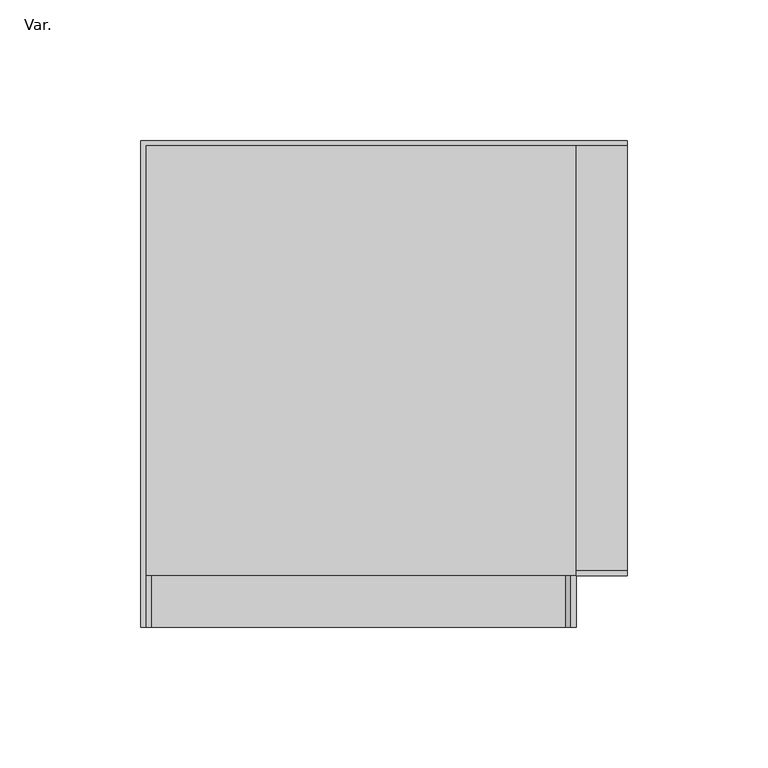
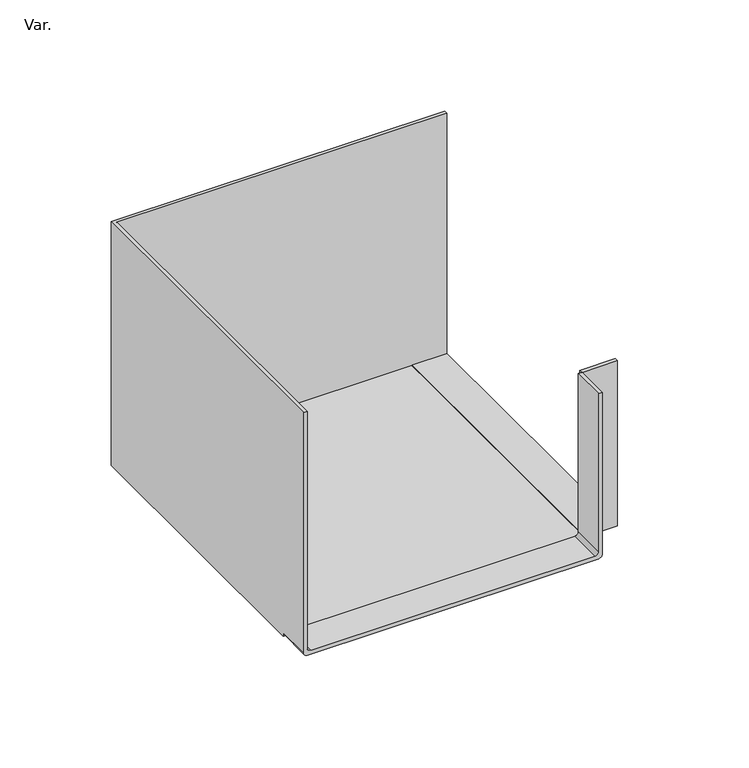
"""IFC4 building model written with IfcOpenShell, lengths in millimetres: pipe fitting geometry, AmancoWavin_Unionesdetubería_CanalesyBajantesZ_NoUsarEsquineroExternoAltoCaudal : Var.."""

import ifcopenshell
import ifcopenshell.guid

model = None  # the IFC model being written
_history = None  # IfcOwnerHistory: only IFC2X3 demands one
_inside = {}  # id of a spatial element -> (the spatial element, [elements in it])
_under = {}  # id of a project, library or spatial element -> (it, [spatial elements below it])
_declared = {}  # id of a project -> (the project, [libraries it declares])
_typed = {}  # id of a type object -> (the type object, [elements of that type])
_made_of = {}  # id of a material, layer set ... -> (it, [elements and type objects made of it])


def new_model(schema):
    """Start an empty IFC model of exactly this schema.

    Asked for "IFC4X3", IfcOpenShell would pick the latest addendum, in which some entities
    have other attributes; the version numbers below select the first issue.
    IFC2X3 requires an IfcOwnerHistory on every rooted entity: one is made here for all.
    """
    global model, _history
    if schema == "IFC4X3":
        model = ifcopenshell.file(schema_version=(4, 3, 0, 0))
    else:
        model = ifcopenshell.file(schema=schema)
    _inside.clear()
    _under.clear()
    _declared.clear()
    _typed.clear()
    _made_of.clear()
    _history = None
    if model.schema == "IFC2X3":
        org = make("IfcOrganization", Name="unknown")
        user = make(
            "IfcPersonAndOrganization",
            ThePerson=make("IfcPerson", FamilyName="unknown"),
            TheOrganization=org,
        )
        app = make(
            "IfcApplication",
            ApplicationDeveloper=org,
            Version="unknown",
            ApplicationFullName="unknown",
            ApplicationIdentifier="unknown",
        )
        _history = make(
            "IfcOwnerHistory",
            OwningUser=user,
            OwningApplication=app,
            ChangeAction="ADDED",
            CreationDate=0,
        )
    return model


def make(cls, **values):
    """One entity of the class cls with the attributes given. An attribute that is None is left unset."""
    return model.create_entity(
        cls, **{name: value for name, value in values.items() if value is not None}
    )


def rooted(cls, **values):
    """An entity with a GlobalId (a new one), such as an element, a storey or a relation."""
    return make(cls, GlobalId=ifcopenshell.guid.new(), OwnerHistory=_history, **values)


def si_unit(unit_type, name, prefix=None):
    """IfcSIUnit, for example si_unit("LENGTHUNIT", "METRE", prefix="MILLI")."""
    return make("IfcSIUnit", UnitType=unit_type, Prefix=prefix, Name=name)


def assignment(units):
    """IfcUnitAssignment: the units of a project."""
    return None if units is None else make("IfcUnitAssignment", Units=units)


def point(xyz):
    """IfcCartesianPoint."""
    return None if xyz is None else make("IfcCartesianPoint", Coordinates=xyz)


def direction(xyz):
    """IfcDirection."""
    return None if xyz is None else make("IfcDirection", DirectionRatios=xyz)


def frame(location, z_axis=None, x_axis=None):
    """IfcAxis2Placement3D, a coordinate frame: its origin and axes. An axis left out is left unset."""
    return make(
        "IfcAxis2Placement3D",
        Location=point(location),
        Axis=direction(z_axis),
        RefDirection=direction(x_axis),
    )


def origin():
    """The frame at (0, 0, 0) with its axes left unset."""
    return frame((0.0, 0.0, 0.0))


def place(relative_to, where):
    """IfcLocalPlacement: puts the frame where relative to a parent placement (None: the world)."""
    return make(
        "IfcLocalPlacement", PlacementRelTo=relative_to, RelativePlacement=where
    )


def context(
    kind, dimensions, precision=None, world=None, true_north=None, identifier=None
):
    """IfcGeometricRepresentationContext, for example the 3D "Model" context."""
    return make(
        "IfcGeometricRepresentationContext",
        ContextIdentifier=identifier,
        ContextType=kind,
        CoordinateSpaceDimension=dimensions,
        Precision=precision,
        WorldCoordinateSystem=world,
        TrueNorth=true_north,
    )


def project(units=None, contexts=None):
    """IfcProject with its units and contexts."""
    return rooted(
        "IfcProject",
        Name="project",
        RepresentationContexts=contexts,
        UnitsInContext=assignment(units),
    )


def spatial(cls, under=None, at=None, **own):
    """A site, building, storey or space (cls), placed at a placement, below another one or the project."""
    s = rooted(cls, ObjectPlacement=at, **own)
    if under is not None:
        _under.setdefault(under.id(), (under, []))[1].append(s)
    return s


def polyline(points):
    """IfcPolyline through the points."""
    return make("IfcPolyline", Points=[point(p) for p in points])


def circle_curve(where, radius):
    """IfcCircle in the frame where."""
    return make("IfcCircle", Position=where, Radius=radius)


def outline(outer, holes=None, kind="AREA"):
    """IfcArbitraryClosedProfileDef: a profile drawn as a closed curve; with holes, ...WithVoids."""
    if holes is None:
        return make("IfcArbitraryClosedProfileDef", ProfileType=kind, OuterCurve=outer)
    return make(
        "IfcArbitraryProfileDefWithVoids",
        ProfileType=kind,
        OuterCurve=outer,
        InnerCurves=holes,
    )


def extrude(swept, where, along, depth):
    """IfcExtrudedAreaSolid: the profile swept, set in the frame where, extruded along a direction by depth."""
    return make(
        "IfcExtrudedAreaSolid",
        SweptArea=swept,
        Position=where,
        ExtrudedDirection=direction(along),
        Depth=depth,
    )


def shape(context_of_items, identifier, shape_type, items):
    """IfcShapeRepresentation: the items that make up one representation, for example the "Body"."""
    return make(
        "IfcShapeRepresentation",
        ContextOfItems=context_of_items,
        RepresentationIdentifier=identifier,
        RepresentationType=shape_type,
        Items=items,
    )


def source(mapping_origin, context_of_items, identifier, shape_type, items):
    """IfcRepresentationMap: a shape defined once, which mapped items show again and again."""
    return make(
        "IfcRepresentationMap",
        MappingOrigin=mapping_origin,
        MappedRepresentation=shape(context_of_items, identifier, shape_type, items),
    )


def transform(
    local_origin,
    x_axis=None,
    y_axis=None,
    z_axis=None,
    scale=None,
    scale2=None,
    scale3=None,
    uniform=True,
):
    """IfcCartesianTransformationOperator3D, or its non-uniform kind. x_axis, y_axis, z_axis: its Axis1, 2, 3."""
    if uniform:
        return make(
            "IfcCartesianTransformationOperator3D",
            Axis1=direction(x_axis),
            Axis2=direction(y_axis),
            LocalOrigin=point(local_origin),
            Scale=scale,
            Axis3=direction(z_axis),
        )
    return make(
        "IfcCartesianTransformationOperator3DnonUniform",
        Axis1=direction(x_axis),
        Axis2=direction(y_axis),
        LocalOrigin=point(local_origin),
        Scale=scale,
        Axis3=direction(z_axis),
        Scale2=scale2,
        Scale3=scale3,
    )


def mapped(mapping_source, mapping_target):
    """IfcMappedItem: shows the shape of a source again, moved by a transform."""
    return make(
        "IfcMappedItem", MappingSource=mapping_source, MappingTarget=mapping_target
    )


def made_of(thing, what):
    """Note that an element or type object is made of a material, layer set ...; save() writes the relation."""
    if what is not None:
        _made_of.setdefault(what.id(), (what, []))[1].append(thing)
    return thing


def element(
    cls,
    number,
    at=None,
    inside=None,
    cuts=None,
    type_object=None,
    material=None,
    context=None,
    identifier="Body",
    shape_type=None,
    held_by="IfcProductDefinitionShape",
    body=None,
    shapes=None,
    **own,
):
    """One element of the class cls, such as IfcWall. Its Tag is "e" and its number.

    at: its placement. inside: the storey or other place that contains it. cuts: it is an
    opening in that element (IfcRelVoidsElement). A single representation is given by context,
    identifier, shape_type and body (its items); several are given by shapes. held_by: the class
    of the entity that holds the representations. save() writes the other relations.
    """
    e = rooted(cls, Tag="e%d" % number, ObjectPlacement=at, **own)
    if body is not None:
        shapes = [shape(context, identifier, shape_type, body)]
    if shapes is not None:
        e.Representation = make(held_by, Representations=shapes)
    if inside is not None:
        _inside.setdefault(inside.id(), (inside, []))[1].append(e)
    if cuts is not None:
        rooted(
            "IfcRelVoidsElement", RelatingBuildingElement=cuts, RelatedOpeningElement=e
        )
    if type_object is not None:
        _typed.setdefault(type_object.id(), (type_object, []))[1].append(e)
    return made_of(e, material)


def aggregate(whole, parts):
    """IfcRelAggregates: a whole, such as a stair, and the parts it consists of."""
    return rooted("IfcRelAggregates", RelatingObject=whole, RelatedObjects=parts)


def save(model, path):
    """Write the relations noted so far, then the file.

    IfcRelAggregates (storeys below a building ...), IfcRelContainedInSpatialStructure (elements
    in a storey), IfcRelDefinesByType, IfcRelAssociatesMaterial and IfcRelDeclares: one each for
    every whole, place, type object, material and project.
    """
    for whole, parts in _under.values():
        aggregate(whole, parts)
    for where, things in _inside.values():
        rooted(
            "IfcRelContainedInSpatialStructure",
            RelatedElements=things,
            RelatingStructure=where,
        )
    for kind, things in _typed.values():
        rooted("IfcRelDefinesByType", RelatedObjects=things, RelatingType=kind)
    for what, things in _made_of.values():
        rooted("IfcRelAssociatesMaterial", RelatedObjects=things, RelatingMaterial=what)
    for by, libraries in _declared.values():
        rooted("IfcRelDeclares", RelatingContext=by, RelatedDefinitions=libraries)
    model.write(path)


def plane_surface(at):
    """IfcPlane: the flat surface through the origin of the frame at, square to its z axis."""
    return make("IfcPlane", Position=at)


def cylinder_surface(at, radius):
    """IfcCylindricalSurface: all points at the distance radius from the z axis of the frame at."""
    return make("IfcCylindricalSurface", Position=at, Radius=radius)


def revolved_surface(curve, axis_point, axis_direction):
    """IfcSurfaceOfRevolution: the curve turned about the line through axis_point along axis_direction."""
    return make(
        "IfcSurfaceOfRevolution",
        SweptCurve=make("IfcArbitraryOpenProfileDef", ProfileType="CURVE", Curve=curve),
        AxisPosition=make("IfcAxis1Placement", Location=point(axis_point), Axis=direction(axis_direction)),
    )


def advanced_brep(points, edges, surfaces, faces):
    """IfcAdvancedBrep: a solid bounded by faces that lie on surfaces and meet in shared edges.

    An edge is (start, end): straight between two places in points (the first is 0);
    or (start, end, curve); or (start, end, curve, False) where it runs against its curve.
    A face is (place in surfaces, loops), or (place, loops, False) where it looks against
    its surface's normal. A loop lists edges by number (the first is 1), with a minus sign
    where the edge is run from its end to its start. The first loop is the outer one.
    """
    corners = [point(p) for p in points]
    vertices = [make("IfcVertexPoint", VertexGeometry=c) for c in corners]
    made = []
    for start, end, *more in edges:
        made.append(
            make(
                "IfcEdgeCurve",
                EdgeStart=vertices[start],
                EdgeEnd=vertices[end],
                EdgeGeometry=more[0] if more else make("IfcPolyline", Points=[corners[start], corners[end]]),
                SameSense=more[1] if len(more) > 1 else True,
            )
        )
    hull = []
    for where, loops, *sense in faces:
        bounds = []
        for j, loop in enumerate(loops):
            ring = [make("IfcOrientedEdge", EdgeElement=made[abs(k) - 1], Orientation=k > 0) for k in loop]
            bounds.append(
                make(
                    "IfcFaceOuterBound" if j == 0 else "IfcFaceBound",
                    Bound=make("IfcEdgeLoop", EdgeList=ring),
                    Orientation=True,
                )
            )
        hull.append(make("IfcAdvancedFace", Bounds=bounds, FaceSurface=surfaces[where], SameSense=sense[0] if sense else True))
    return make("IfcAdvancedBrep", Outer=make("IfcClosedShell", CfsFaces=hull))


def var_69792a31(model_context):
    return source(origin(), model_context, "Body", "SolidModel", [
        advanced_brep(
        [(-75.6, 13.0825942, 2.1103246), (-75.6, 13.0825942, 132.0632792), (-77.4768635, 13.0825942, 132.0632792), (-77.4768635, 13.0825942, 0.0832647), (-75.534248, 13.0825942, -1.8593508), (75.678427, 13.0825942, -1.8593508), (77.6, 13.0825942, 0.0622221), (77.6, 13.0825942, 88.8544602), (75.6962601, 13.0825942, 88.8544602), (75.6962601, 13.0825942, 2.0108417), (73.755743, 13.0825942, 0.0703246), (-73.56, 13.0825942, 0.0703246), (-75.6, 31.3, 2.1103246), (-73.56, 31.3, 0.0703246), (73.755743, 31.3, 0.0703246), (75.6962601, 31.3, 2.0108417), (75.6962601, 31.3, 88.8544602), (77.6, 31.3, 88.8544602), (77.6, 31.3, 0.0622221), (75.678427, 31.3, -1.8593508), (-75.534248, 31.3, -1.8593508), (-77.4768635, 186.24, 132.0632792), (-77.4768635, 186.24, -1.8593508), (-77.4768635, 31.3, -1.8593508), (-77.4768635, 31.3, 0.0832647), (-75.6, 184.5, -1.8593508), (-75.6, 184.5, 132.0632792), (95.82, 186.24, -1.8593508), (95.82, 31.3, -1.8593508), (77.6, 31.3, -1.8593508), (77.6, 184.5, -1.8593508), (95.82, 184.5, 132.0632792), (77.6, 184.5, 0.0), (95.82, 184.5, 0.0), (95.82, 186.24, 132.0632792), (95.82, 33.14, 88.8544602), (95.82, 31.3, 88.8544602), (95.82, 33.14, 0.0), (77.6, 33.14, 88.8544602), (77.6, 33.14, 0.0)],
        [
            (0, 1),
            (1, 2),
            (2, 3),
            (3, 4, circle_curve(frame((-75.534248, 13.0825942, 0.0832647), z_axis=(0.0, -1.0, 0.0), x_axis=(1.0, 0.0, 0.0)), 1.9426156)),
            (4, 5),
            (5, 6, circle_curve(frame((75.678427, 13.0825942, 0.0622221), z_axis=(0.0, -1.0, 0.0), x_axis=(1.0, 0.0, 0.0)), 1.921573)),
            (6, 7),
            (7, 8),
            (8, 9),
            (9, 10, circle_curve(frame((73.755743, 13.0825942, 2.0108417), z_axis=(0.0, 1.0, 0.0), x_axis=(1.0, 0.0, 0.0)), 1.9405171)),
            (10, 11),
            (11, 0, circle_curve(frame((-73.56, 13.0825942, 2.1103246), z_axis=(0.0, 1.0, 0.0), x_axis=(1.0, 0.0, 0.0)), 2.04)),
            (12, 13, circle_curve(frame((-73.56, 31.3, 2.1103246), z_axis=(0.0, -1.0, 0.0), x_axis=(1.0, 0.0, 0.0)), 2.04)),
            (13, 14),
            (14, 15, circle_curve(frame((73.755743, 31.3, 2.0108417), z_axis=(0.0, -1.0, 0.0), x_axis=(1.0, 0.0, 0.0)), 1.9405171)),
            (15, 16),
            (16, 17),
            (17, 18),
            (18, 19, circle_curve(frame((75.678427, 31.3, 0.0622221), z_axis=(0.0, 1.0, 0.0), x_axis=(1.0, 0.0, 0.0)), 1.921573)),
            (19, 20),
            (20, 12),
            (2, 21),
            (21, 22),
            (22, 23),
            (23, 24),
            (24, 3),
            (4, 20),
            (19, 5),
            (6, 18),
            (18, 17),
            (17, 7),
            (8, 16),
            (15, 9),
            (10, 14),
            (13, 11),
            (0, 12),
            (20, 25),
            (25, 26),
            (26, 1),
            (24, 20, circle_curve(frame((-75.534248, 31.3, 0.0832647), z_axis=(0.0, -1.0, 0.0), x_axis=(1.0, 0.0, 0.0)), 1.9426156)),
            (27, 28),
            (28, 29),
            (29, 30),
            (30, 25),
            (20, 23),
            (22, 27),
            (31, 26),
            (30, 32),
            (32, 33),
            (33, 31),
            (21, 34),
            (34, 27),
            (31, 34),
            (35, 36),
            (36, 28),
            (33, 37),
            (37, 35),
            (38, 39),
            (39, 32),
            (29, 18),
            (17, 38),
            (35, 38),
            (17, 36),
            (39, 37),
        ],
        [
            plane_surface(frame((-75.6, 13.0825942, 132.0632792), z_axis=(0.0, -1.0, 0.0), x_axis=(0.0, 0.0, 1.0))),
            plane_surface(frame((-75.6, 31.3, 132.0632792), z_axis=(0.0, 1.0, 0.0), x_axis=(0.0, 0.0, -1.0))),
            plane_surface(frame((-77.4768635, 13.0825942, 132.0632792), z_axis=(-1.0, 0.0, 0.0), x_axis=(0.0, 1.0, 0.0))),
            plane_surface(frame((-75.534248, 13.0825942, -1.8593508), z_axis=(0.0, 0.0, -1.0), x_axis=(0.0, 1.0, 0.0))),
            plane_surface(frame((77.6, 13.0825942, 0.0622221), z_axis=(1.0, 0.0, 0.0), x_axis=(0.0, 1.0, 0.0))),
            plane_surface(frame((75.6962601, 13.0825942, 88.8544602), z_axis=(-1.0, 0.0, 0.0), x_axis=(0.0, 1.0, 0.0))),
            plane_surface(frame((73.755743, 13.0825942, 0.0703246), z_axis=(0.0, 0.0, 1.0), x_axis=(0.0, 1.0, 0.0))),
            plane_surface(frame((-75.6, 13.0825942, 2.1103246), z_axis=(1.0, 0.0, 0.0), x_axis=(0.0, 1.0, 0.0))),
            cylinder_surface(frame((-75.534248, 31.3, 0.0832647), z_axis=(0.0, -1.0, 0.0), x_axis=(1.0, 0.0, 0.0)), 1.9426156),
            cylinder_surface(frame((75.678427, 31.3, 0.0622221), z_axis=(0.0, -1.0, 0.0), x_axis=(1.0, 0.0, 0.0)), 1.921573),
            revolved_surface(polyline([(75.69626009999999, 31.3, 2.0108417), (75.69626009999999, 13.082594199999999, 2.0108417)]), (73.755743, 31.3, 2.0108417), (0.0, 1.0, 0.0)),
            revolved_surface(polyline([(-71.52, 31.3, 2.1103246), (-71.52, 13.082594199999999, 2.1103246)]), (-73.56, 31.3, 2.1103246), (0.0, 1.0, 0.0)),
            plane_surface(frame((-77.4768635, 31.3, -1.8593508), z_axis=(0.0, 0.0, -1.0), x_axis=(0.0, 1.0, 0.0))),
            plane_surface(frame((-77.4768635, 31.3, 132.0632792), z_axis=(0.0, -1.0, 0.0), x_axis=(0.0, 0.0, -1.0))),
            plane_surface(frame((-75.6, 184.5, 132.0632792), z_axis=(0.0, -1.0, 0.0), x_axis=(0.0, 0.0, -1.0))),
            plane_surface(frame((77.6, 186.24, 132.0632792), z_axis=(0.0, 1.0, 0.0), x_axis=(0.0, 0.0, -1.0))),
            plane_surface(frame((-75.6, 13.0825942, 132.0632792), z_axis=(0.0, 0.0, 1.0), x_axis=(0.0, 1.0, 0.0))),
            plane_surface(frame((77.6, 13.0825942, 88.8544602), z_axis=(0.0, 0.0, 1.0), x_axis=(0.0, 1.0, 0.0))),
            plane_surface(frame((95.82, 31.3, 88.8544602), z_axis=(1.0, 0.0, 0.0), x_axis=(0.0, -1.0, 0.0))),
            plane_surface(frame((77.6, 31.3, 88.8544602), z_axis=(-1.0, 0.0, 0.0), x_axis=(0.0, 1.0, 0.0))),
            plane_surface(frame((95.82, 33.14, 88.8544602), z_axis=(0.0, 0.0, 1.0), x_axis=(-1.0, 0.0, 0.0))),
            plane_surface(frame((95.82, 31.3, 88.8544602), z_axis=(0.0, -1.0, 0.0), x_axis=(-1.0, 0.0, 0.0))),
            plane_surface(frame((95.82, 184.5, 0.0), z_axis=(0.0, 0.0, 1.0), x_axis=(-1.0, 0.0, 0.0))),
            plane_surface(frame((95.82, 33.14, 0.0), z_axis=(0.0, 1.0, 0.0), x_axis=(-1.0, 0.0, 0.0))),
        ],
        [
            (0, [[1, 2, 3, 4, 5, 6, 7, 8, 9, 10, 11, 12]]),
            (1, [[13, 14, 15, 16, 17, 18, 19, 20, 21]]),
            (2, [[-3, 22, 23, 24, 25, 26]]),
            (3, [[-5, 27, -20, 28]]),
            (4, [[-7, 29, 30, 31]]),
            (5, [[-9, 32, -16, 33]]),
            (6, [[-11, 34, -14, 35]]),
            (7, [[-1, 36, -21, 37, 38, 39]]),
            (8, [[-4, -26, 40, -27]]),
            (9, [[-6, -28, -19, -29]]),
            (10, [[-10, -33, -15, -34]]),
            (11, [[-12, -35, -13, -36]]),
            (12, [[41, 42, 43, 44, -37, 45, -24, 46]]),
            (13, [[-45, -40, -25]]),
            (14, [[47, -38, -44, 48, 49, 50]]),
            (15, [[51, 52, -46, -23]]),
            (16, [[-2, -39, -47, 53, -51, -22]]),
            (17, [[-8, -31, -17, -32]]),
            (18, [[54, 55, -41, -52, -53, -50, 56, 57]]),
            (19, [[58, 59, -48, -43, 60, -18, 61]]),
            (20, [[-54, 62, -61, 63]]),
            (21, [[-55, -63, -30, -60, -42]]),
            (22, [[-56, -49, -59, 64]]),
            (23, [[-57, -64, -58, -62]]),
        ],
    ),
        extrude(outline(polyline([(77.48, 184.5), (77.48, 31.3), (-75.6, 31.3), (-75.6, 184.5), (77.48, 184.5)])), frame((0.0, 0.0, -1.8593508), z_axis=(0.0, 0.0, 1.0), x_axis=(1.0, 0.0, 0.0)), (0.0, 0.0, 1.0), 1.8593508),
    ])


if __name__ == "__main__":
    model = new_model("IFC4")
    model_context = context("Model", 3, world=origin())
    ifc_project = project(units=[si_unit("LENGTHUNIT", "METRE", prefix="MILLI")], contexts=[model_context])
    site = spatial("IfcSite", under=ifc_project)
    building = spatial("IfcBuilding", under=site)
    placement = place(None, origin())
    var_shape = var_69792a31(model_context)
    element("IfcPipeFitting", 1, ObjectType="AmancoWavin_Unionesdetubería_CanalesyBajantesZ_NoUsarEsquineroExternoAltoCaudal : Var.", at=placement, inside=building, context=model_context, shape_type="MappedRepresentation", body=[
        mapped(var_shape, transform((0.0, 0.0, 0.0), x_axis=(1.0, 0.0, 0.0), y_axis=(0.0, 1.0, 0.0), z_axis=(0.0, 0.0, 1.0))),
    ])
    save(model, "model.ifc")
